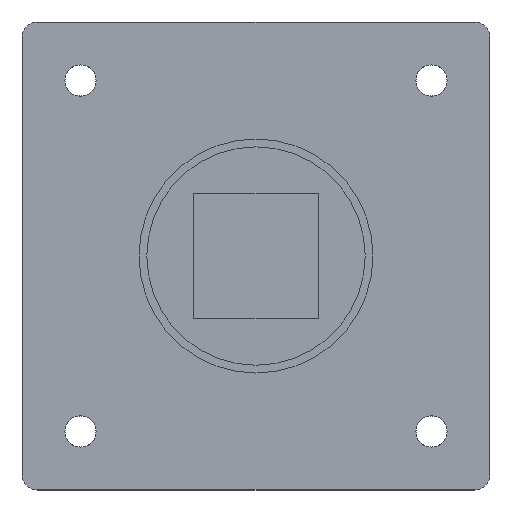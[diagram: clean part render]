
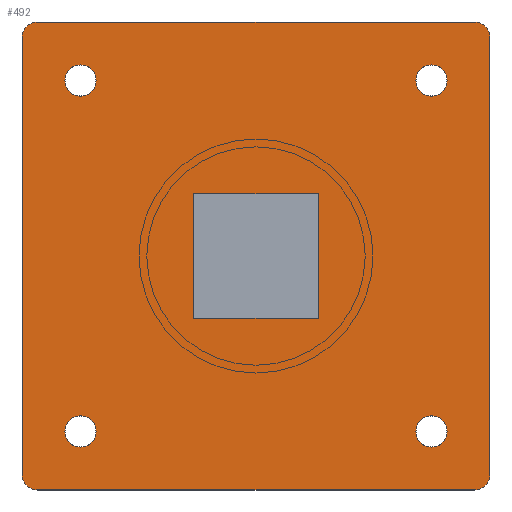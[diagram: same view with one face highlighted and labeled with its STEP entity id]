
A CAD part, top view. The second image highlights one B-rep face of the part: STEP entity #492.
In plain terms, the highlighted planar face has unit normal (0, 0, 1).
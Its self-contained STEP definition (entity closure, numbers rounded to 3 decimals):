
#200 = VERTEX_POINT( '', #568 );
#214 = EDGE_CURVE( '', #232, #394, #585, .T. );
#226 = EDGE_CURVE( '', #248, #232, #599, .T. );
#228 = EDGE_CURVE( '', #364, #200, #601, .T. );
#232 = VERTEX_POINT( '', #605 );
#246 = EDGE_CURVE( '', #272, #248, #621, .T. );
#248 = VERTEX_POINT( '', #623 );
#250 = EDGE_CURVE( '', #524, #424, #625, .T. );
#268 = EDGE_CURVE( '', #288, #272, #653, .T. );
#272 = VERTEX_POINT( '', #657 );
#280 = VERTEX_POINT( '', #665 );
#282 = EDGE_CURVE( '', #322, #288, #667, .T. );
#288 = VERTEX_POINT( '', #674 );
#290 = EDGE_CURVE( '', #280, #430, #676, .T. );
#312 = EDGE_CURVE( '', #350, #322, #701, .T. );
#322 = VERTEX_POINT( '', #712 );
#348 = EDGE_CURVE( '', #376, #350, #739, .T. );
#350 = VERTEX_POINT( '', #741 );
#364 = VERTEX_POINT( '', #757 );
#370 = EDGE_CURVE( '', #394, #376, #763, .T. );
#374 = VERTEX_POINT( '', #767 );
#376 = VERTEX_POINT( '', #769 );
#380 = EDGE_CURVE( '', #374, #396, #773, .T. );
#392 = EDGE_CURVE( '', #430, #280, #788, .T. );
#394 = VERTEX_POINT( '', #790 );
#396 = VERTEX_POINT( '', #792 );
#410 = EDGE_CURVE( '', #424, #524, #808, .T. );
#412 = EDGE_CURVE( '', #396, #374, #810, .T. );
#422 = EDGE_CURVE( '', #200, #364, #822, .T. );
#424 = VERTEX_POINT( '', #824 );
#430 = VERTEX_POINT( '', #831 );
#436 = EDGE_CURVE( '', #470, #546, #837, .T. );
#462 = EDGE_CURVE( '', #500, #470, #865, .T. );
#470 = VERTEX_POINT( '', #874 );
#492 = ADVANCED_FACE( '', ( #896, #897, #898, #899, #900, #901 ), #902, .T. );
#498 = EDGE_CURVE( '', #540, #500, #910, .T. );
#500 = VERTEX_POINT( '', #912 );
#524 = VERTEX_POINT( '', #939 );
#534 = EDGE_CURVE( '', #546, #540, #950, .T. );
#540 = VERTEX_POINT( '', #956 );
#546 = VERTEX_POINT( '', #962 );
#568 = CARTESIAN_POINT( '', ( -20.5, 22.5, 0. ) );
#585 = CIRCLE( '', #991, 2. );
#599 = LINE( '', #1012, #1013 );
#601 = CIRCLE( '', #1016, 2. );
#605 = CARTESIAN_POINT( '', ( -28., -30., 0. ) );
#621 = CIRCLE( '', #1046, 2. );
#623 = CARTESIAN_POINT( '', ( 28., -30., 0. ) );
#625 = CIRCLE( '', #1051, 2. );
#653 = LINE( '', #1084, #1085 );
#657 = CARTESIAN_POINT( '', ( 30., -28., 0. ) );
#665 = CARTESIAN_POINT( '', ( 20.5, -22.5, 0. ) );
#667 = CIRCLE( '', #1105, 2. );
#674 = CARTESIAN_POINT( '', ( 30., 28., 0. ) );
#676 = CIRCLE( '', #1115, 2. );
#701 = LINE( '', #1147, #1148 );
#712 = CARTESIAN_POINT( '', ( 28., 30., 0. ) );
#739 = CIRCLE( '', #1200, 2. );
#741 = CARTESIAN_POINT( '', ( -28., 30., 0. ) );
#757 = CARTESIAN_POINT( '', ( -24.5, 22.5, 0. ) );
#763 = LINE( '', #1231, #1232 );
#767 = CARTESIAN_POINT( '', ( 20.5, 22.5, 0. ) );
#769 = CARTESIAN_POINT( '', ( -30., 28., 0. ) );
#773 = CIRCLE( '', #1245, 2. );
#788 = CIRCLE( '', #1264, 2. );
#790 = CARTESIAN_POINT( '', ( -30., -28., 0. ) );
#792 = CARTESIAN_POINT( '', ( 24.5, 22.5, 0. ) );
#808 = CIRCLE( '', #1288, 2. );
#810 = CIRCLE( '', #1291, 2. );
#822 = CIRCLE( '', #1306, 2. );
#824 = CARTESIAN_POINT( '', ( -20.5, -22.5, 0. ) );
#831 = CARTESIAN_POINT( '', ( 24.5, -22.5, 0. ) );
#837 = LINE( '', #1324, #1325 );
#865 = LINE( '', #1365, #1366 );
#874 = CARTESIAN_POINT( '', ( 8., 8., 0. ) );
#896 = FACE_BOUND( '', #1409, .T. );
#897 = FACE_OUTER_BOUND( '', #1410, .T. );
#898 = FACE_BOUND( '', #1411, .T. );
#899 = FACE_BOUND( '', #1412, .T. );
#900 = FACE_BOUND( '', #1413, .T. );
#901 = FACE_BOUND( '', #1414, .T. );
#902 = PLANE( '', #1415 );
#910 = LINE( '', #1424, #1425 );
#912 = CARTESIAN_POINT( '', ( -8., 8., 0. ) );
#939 = CARTESIAN_POINT( '', ( -24.5, -22.5, 0. ) );
#950 = LINE( '', #1475, #1476 );
#956 = CARTESIAN_POINT( '', ( -8., -8., 0. ) );
#962 = CARTESIAN_POINT( '', ( 8., -8., 0. ) );
#991 = AXIS2_PLACEMENT_3D( '', #1526, #1527, #1528 );
#1012 = CARTESIAN_POINT( '', ( -28., -30., 0. ) );
#1013 = VECTOR( '', #1548, 1. );
#1016 = AXIS2_PLACEMENT_3D( '', #1549, #1550, #1551 );
#1046 = AXIS2_PLACEMENT_3D( '', #1569, #1570, #1571 );
#1051 = AXIS2_PLACEMENT_3D( '', #1572, #1573, #1574 );
#1084 = CARTESIAN_POINT( '', ( 30., -28., 0. ) );
#1085 = VECTOR( '', #1623, 1. );
#1105 = AXIS2_PLACEMENT_3D( '', #1629, #1630, #1631 );
#1115 = AXIS2_PLACEMENT_3D( '', #1640, #1641, #1642 );
#1147 = CARTESIAN_POINT( '', ( 28., 30., 0. ) );
#1148 = VECTOR( '', #1668, 1. );
#1200 = AXIS2_PLACEMENT_3D( '', #1704, #1705, #1706 );
#1231 = CARTESIAN_POINT( '', ( -30., 28., 0. ) );
#1232 = VECTOR( '', #1726, 1. );
#1245 = AXIS2_PLACEMENT_3D( '', #1728, #1729, #1730 );
#1264 = AXIS2_PLACEMENT_3D( '', #1751, #1752, #1753 );
#1288 = AXIS2_PLACEMENT_3D( '', #1779, #1780, #1781 );
#1291 = AXIS2_PLACEMENT_3D( '', #1782, #1783, #1784 );
#1306 = AXIS2_PLACEMENT_3D( '', #1807, #1808, #1809 );
#1324 = CARTESIAN_POINT( '', ( 8., 4., 0. ) );
#1325 = VECTOR( '', #1824, 1. );
#1365 = CARTESIAN_POINT( '', ( -4., 8., 0. ) );
#1366 = VECTOR( '', #1847, 1. );
#1409 = EDGE_LOOP( '', ( #1878, #1879, #1880, #1881 ) );
#1410 = EDGE_LOOP( '', ( #1882, #1883, #1884, #1885, #1886, #1887, #1888, #1889 ) );
#1411 = EDGE_LOOP( '', ( #1890, #1891 ) );
#1412 = EDGE_LOOP( '', ( #1892, #1893 ) );
#1413 = EDGE_LOOP( '', ( #1894, #1895 ) );
#1414 = EDGE_LOOP( '', ( #1896, #1897 ) );
#1415 = AXIS2_PLACEMENT_3D( '', #1898, #1899, #1900 );
#1424 = CARTESIAN_POINT( '', ( -8., -4., 0. ) );
#1425 = VECTOR( '', #1917, 1. );
#1475 = CARTESIAN_POINT( '', ( 4., -8., 0. ) );
#1476 = VECTOR( '', #1962, 1. );
#1526 = CARTESIAN_POINT( '', ( -28., -28., 0. ) );
#1527 = DIRECTION( '', ( 0., 0., -1. ) );
#1528 = DIRECTION( '', ( -1., 0., 0. ) );
#1548 = DIRECTION( '', ( -1., 0., 0. ) );
#1549 = CARTESIAN_POINT( '', ( -22.5, 22.5, 0. ) );
#1550 = DIRECTION( '', ( 0., 0., 1. ) );
#1551 = DIRECTION( '', ( 1., 0., 0. ) );
#1569 = CARTESIAN_POINT( '', ( 28., -28., 0. ) );
#1570 = DIRECTION( '', ( 0., 0., -1. ) );
#1571 = DIRECTION( '', ( 0., -1., 0. ) );
#1572 = CARTESIAN_POINT( '', ( -22.5, -22.5, 0. ) );
#1573 = DIRECTION( '', ( 0., 0., 1. ) );
#1574 = DIRECTION( '', ( 1., 0., 0. ) );
#1623 = DIRECTION( '', ( 0., -1., 0. ) );
#1629 = CARTESIAN_POINT( '', ( 28., 28., 0. ) );
#1630 = DIRECTION( '', ( 0., 0., -1. ) );
#1631 = DIRECTION( '', ( 1., 0., 0. ) );
#1640 = CARTESIAN_POINT( '', ( 22.5, -22.5, 0. ) );
#1641 = DIRECTION( '', ( 0., 0., 1. ) );
#1642 = DIRECTION( '', ( 1., 0., 0. ) );
#1668 = DIRECTION( '', ( 1., 0., 0. ) );
#1704 = CARTESIAN_POINT( '', ( -28., 28., 0. ) );
#1705 = DIRECTION( '', ( 0., 0., -1. ) );
#1706 = DIRECTION( '', ( 0., 1., 0. ) );
#1726 = DIRECTION( '', ( 0., 1., 0. ) );
#1728 = CARTESIAN_POINT( '', ( 22.5, 22.5, 0. ) );
#1729 = DIRECTION( '', ( 0., 0., 1. ) );
#1730 = DIRECTION( '', ( 1., 0., 0. ) );
#1751 = CARTESIAN_POINT( '', ( 22.5, -22.5, 0. ) );
#1752 = DIRECTION( '', ( 0., 0., 1. ) );
#1753 = DIRECTION( '', ( 1., 0., 0. ) );
#1779 = CARTESIAN_POINT( '', ( -22.5, -22.5, 0. ) );
#1780 = DIRECTION( '', ( 0., 0., 1. ) );
#1781 = DIRECTION( '', ( 1., 0., 0. ) );
#1782 = CARTESIAN_POINT( '', ( 22.5, 22.5, 0. ) );
#1783 = DIRECTION( '', ( 0., 0., 1. ) );
#1784 = DIRECTION( '', ( 1., 0., 0. ) );
#1807 = CARTESIAN_POINT( '', ( -22.5, 22.5, 0. ) );
#1808 = DIRECTION( '', ( 0., 0., 1. ) );
#1809 = DIRECTION( '', ( 1., 0., 0. ) );
#1824 = DIRECTION( '', ( 0., -1., 0. ) );
#1847 = DIRECTION( '', ( 1., 0., 0. ) );
#1878 = ORIENTED_EDGE( '', *, *, #462, .T. );
#1879 = ORIENTED_EDGE( '', *, *, #436, .T. );
#1880 = ORIENTED_EDGE( '', *, *, #534, .T. );
#1881 = ORIENTED_EDGE( '', *, *, #498, .T. );
#1882 = ORIENTED_EDGE( '', *, *, #370, .F. );
#1883 = ORIENTED_EDGE( '', *, *, #214, .F. );
#1884 = ORIENTED_EDGE( '', *, *, #226, .F. );
#1885 = ORIENTED_EDGE( '', *, *, #246, .F. );
#1886 = ORIENTED_EDGE( '', *, *, #268, .F. );
#1887 = ORIENTED_EDGE( '', *, *, #282, .F. );
#1888 = ORIENTED_EDGE( '', *, *, #312, .F. );
#1889 = ORIENTED_EDGE( '', *, *, #348, .F. );
#1890 = ORIENTED_EDGE( '', *, *, #392, .F. );
#1891 = ORIENTED_EDGE( '', *, *, #290, .F. );
#1892 = ORIENTED_EDGE( '', *, *, #412, .F. );
#1893 = ORIENTED_EDGE( '', *, *, #380, .F. );
#1894 = ORIENTED_EDGE( '', *, *, #410, .F. );
#1895 = ORIENTED_EDGE( '', *, *, #250, .F. );
#1896 = ORIENTED_EDGE( '', *, *, #422, .F. );
#1897 = ORIENTED_EDGE( '', *, *, #228, .F. );
#1898 = CARTESIAN_POINT( '', ( 0., 0., 0. ) );
#1899 = DIRECTION( '', ( 0., 0., 1. ) );
#1900 = DIRECTION( '', ( 1., 0., 0. ) );
#1917 = DIRECTION( '', ( 0., 1., 0. ) );
#1962 = DIRECTION( '', ( -1., 0., 0. ) );
